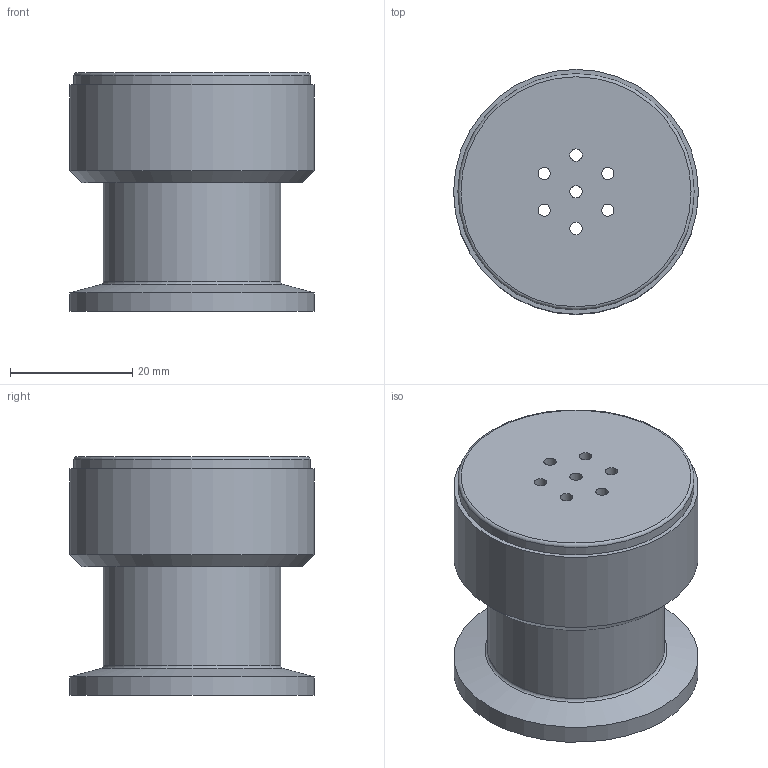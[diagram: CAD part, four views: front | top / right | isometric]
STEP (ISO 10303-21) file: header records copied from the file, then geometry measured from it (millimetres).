
FILE_DESCRIPTION( ( 'Unknown' ), '1' );
FILE_NAME( 'X:/Daten ( aktueller Bestand )/Projekte und Zeichnungen/Solid Edge/STP-Dateien/Sonderbauteile KF/1752-7.stp', 'Unknown', ( 'Unknown' ), ( 'Unknown' ), 'PSStep 14.0', 'Unknown', ' ' );
FILE_SCHEMA( ( 'AUTOMOTIVE_DESIGN { 1 0 10303 214 1 1 1 1 }' ) );
Length unit declared in the file: millimetre
Products named in the file (3): Assem1; 1742-1.1; 1742-1.27
Assembly tree (2 placements, depth 2):
  Assem1
    1742-1.1
    1742-1.27
Bounding box: 40 x 40 x 39 mm (x, y, z)
Volume: 20919.2 mm3; surface area: 14562.7 mm2
Topology: 2 solids, 2 shells, 32 faces, 71 edges, 46 vertices
Faces by surface type: cylinder 17, plane 7, cone 6, torus 2
Full cylindrical faces by diameter (mm): 2 x7, 19 x1, 24.361 x1, 24.5 x1, 29 x1, 34 x2, 36 x1, 38.597 x1, 40 x2
Entity records: 1046 total; most frequent: DIRECTION 146, CARTESIAN_POINT 111, EDGE_LOOP 76, ORIENTED_EDGE 76, AXIS2_PLACEMENT_3D 73, FACE_OUTER_BOUND 51, EDGE_CURVE 38, VERTEX_POINT 38
